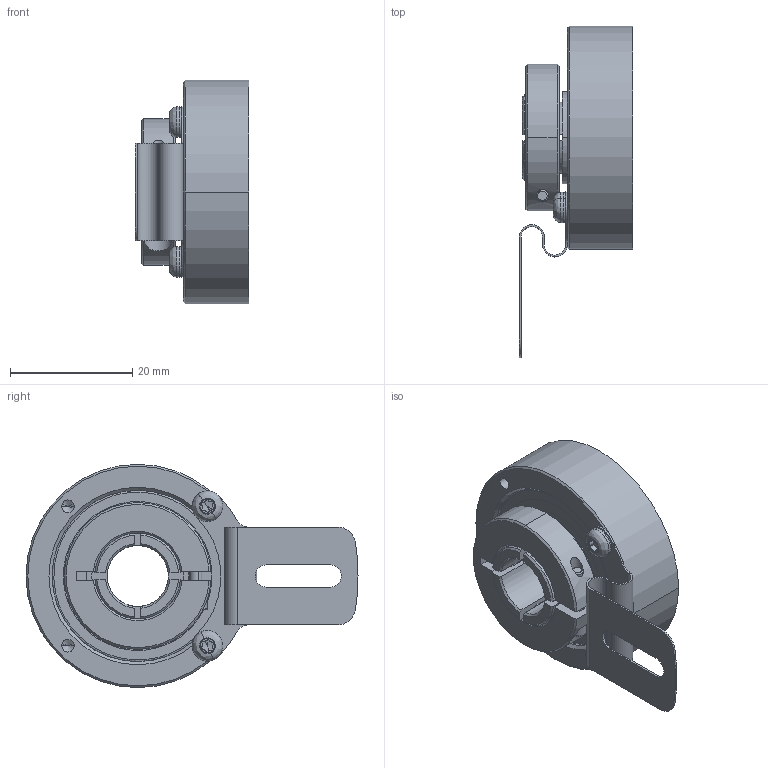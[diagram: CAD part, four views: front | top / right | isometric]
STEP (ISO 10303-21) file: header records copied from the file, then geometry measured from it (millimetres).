
FILE_DESCRIPTION (( 'STEP AP214' ), '1' );
FILE_NAME ('drawing-ucd-vaa0-q3a-n.STEP', '2017-01-19T10:11:05', ( '' ), ( '' ), 'SwSTEP 2.0', 'SolidWorks 2015', '' );
FILE_SCHEMA (( 'AUTOMOTIVE_DESIGN' ));
Length unit declared in the file: millimetre
Products named in the file (1): drawing-ucd-vaa0-q3a-n
Bounding box: 18.5 x 54.25 x 36.5 mm (x, y, z)
Volume: 10177.9 mm3; surface area: 13834.9 mm2
Topology: 20 solids, 20 shells, 431 faces, 1091 edges, 663 vertices
Faces by surface type: cylinder 146, plane 113, cone 84, bspline 84, torus 4
Entity records: 20341 total; most frequent: CARTESIAN_POINT 5547, ORIENTED_EDGE 2070, DIRECTION 2043, EDGE_CURVE 1035, AXIS2_PLACEMENT_3D 865, VERTEX_POINT 663, CIRCLE 517, EDGE_LOOP 490
